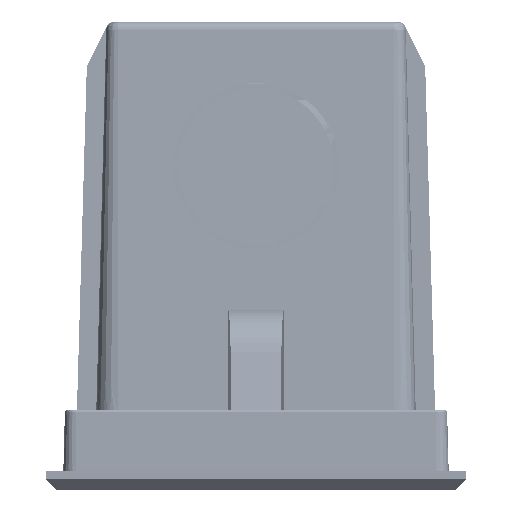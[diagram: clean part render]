
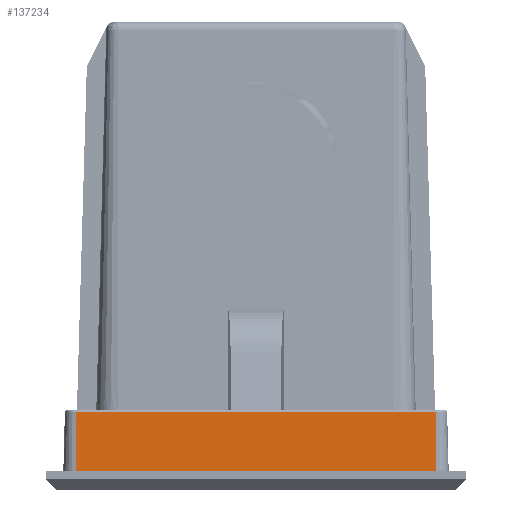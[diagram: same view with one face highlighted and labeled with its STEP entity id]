
A CAD part, left-side view. The second image highlights one B-rep face of the part: STEP entity #137234.
In plain terms, the highlighted planar face has unit normal (-1, 0, 0.026).
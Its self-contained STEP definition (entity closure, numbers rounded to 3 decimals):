
#128215=DIRECTION('',(0.,-1.,0.));
#128216=VECTOR('',#128215,65.);
#128217=CARTESIAN_POINT('',(-120.288,32.5,0.));
#128218=LINE('',#128217,#128216);
#128698=DIRECTION('',(0.,-1.,0.));
#128699=VECTOR('',#128698,65.);
#128700=CARTESIAN_POINT('',(-120.013,32.5,
10.513));
#128701=LINE('',#128700,#128699);
#128702=DIRECTION('',(-0.026,0.,-1.));
#128703=VECTOR('',#128702,10.517);
#128704=CARTESIAN_POINT('',(-120.013,-32.5,
10.513));
#128705=LINE('',#128704,#128703);
#128706=DIRECTION('',(-0.026,0.,
-1.));
#128707=VECTOR('',#128706,10.517);
#128708=CARTESIAN_POINT('',(-120.013,32.5,
10.513));
#128709=LINE('',#128708,#128707);
#134888=CARTESIAN_POINT('',(-120.288,32.5,0.));
#134890=VERTEX_POINT('',#134888);
#134893=CARTESIAN_POINT('',(-120.288,-32.5,0.));
#134895=VERTEX_POINT('',#134893);
#136124=CARTESIAN_POINT('',(-120.013,32.5,10.513));
#136126=VERTEX_POINT('',#136124);
#136129=CARTESIAN_POINT('',(-120.013,-32.5,
10.513));
#136130=VERTEX_POINT('',#136129);
#137223=CARTESIAN_POINT('',(-120.,38.796,11.));
#137224=DIRECTION('',(-1.,0.,0.026));
#137225=DIRECTION('',(0.,-1.,0.));
#137226=AXIS2_PLACEMENT_3D('',#137223,#137224,#137225);
#137227=PLANE('',#137226);
#137228=ORIENTED_EDGE('',*,*,#137217,.T.);
#137229=ORIENTED_EDGE('',*,*,#137192,.T.);
#137230=ORIENTED_EDGE('',*,*,#136798,.F.);
#137231=ORIENTED_EDGE('',*,*,#136840,.F.);
#137232=EDGE_LOOP('',(#137228,#137229,#137230,#137231));
#137233=FACE_OUTER_BOUND('',#137232,.F.);
#137234=ADVANCED_FACE('',(#137233),#137227,.T.);
#136798=EDGE_CURVE('',#134890,#134895,#128218,.T.);
#136840=EDGE_CURVE('',#136126,#134890,#128709,.T.);
#137192=EDGE_CURVE('',#136130,#134895,#128705,.T.);
#137217=EDGE_CURVE('',#136126,#136130,#128701,.T.);
